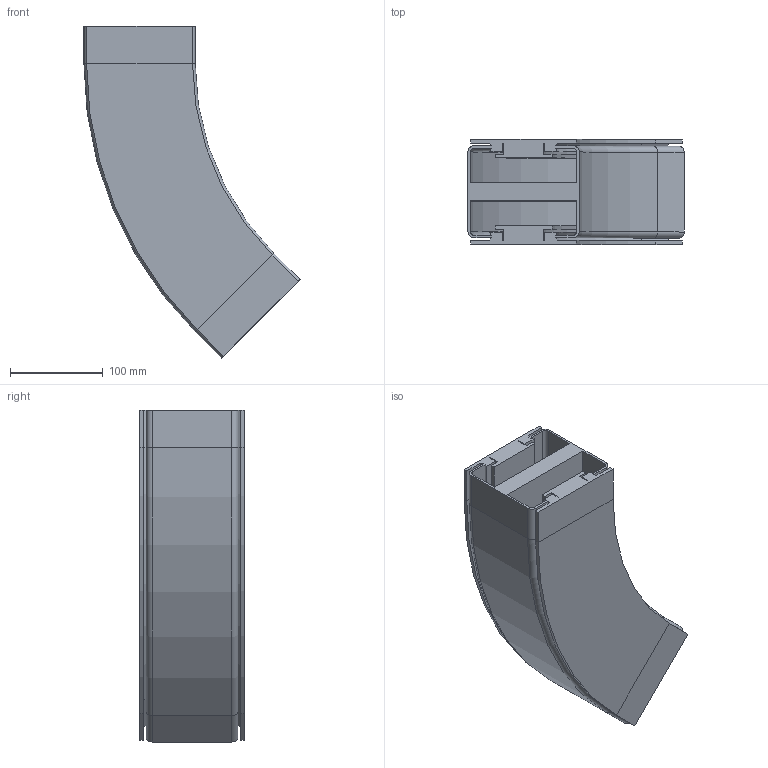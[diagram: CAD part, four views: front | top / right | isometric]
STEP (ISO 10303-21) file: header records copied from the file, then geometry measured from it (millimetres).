
FILE_DESCRIPTION (( 'STEP AP214' ), '1' );
FILE_NAME ('VC.120 Horizontale bochtsectie.R350 45.STEP', '2017-02-08T07:48:18', ( '' ), ( '' ), 'SwSTEP 2.0', 'SolidWorks 2016', '' );
FILE_SCHEMA (( 'AUTOMOTIVE_DESIGN' ));
Length unit declared in the file: millimetre
Products named in the file (1): VC.120 Horizontale bochtsectie.R350 45
Bounding box: 233.22 x 113 x 358.2 mm (x, y, z)
Volume: 2092473.8 mm3; surface area: 517760.4 mm2
Topology: 1 solids, 1 shells, 206 faces, 476 edges, 272 vertices
Faces by surface type: plane 152, cylinder 38, cone 8, torus 8
Entity records: 5674 total; most frequent: DIRECTION 990, CARTESIAN_POINT 955, ORIENTED_EDGE 952, EDGE_CURVE 476, VECTOR 376, LINE 376, AXIS2_PLACEMENT_3D 307, VERTEX_POINT 272
